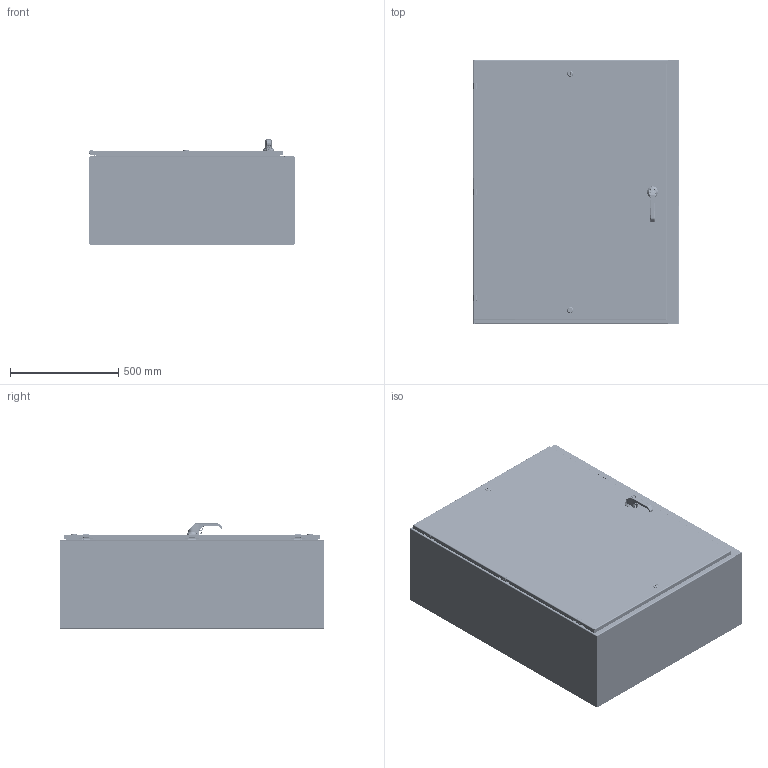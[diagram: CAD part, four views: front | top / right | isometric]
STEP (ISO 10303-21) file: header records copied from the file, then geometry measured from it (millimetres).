
FILE_DESCRIPTION((''),'2;1');
FILE_NAME('MODEL-315_ASM','2026-04-03T09:01:20',('mikek'),('SAGINAW CONTROL & ENGINEERING'),'CREO PARAMETRIC BY PTC INC, 2021284','CREO PARAMETRIC BY PTC INC, 2021284','');
FILE_SCHEMA(('AUTOMOTIVE_DESIGN { 1 0 10303 214 1 1 1 1 }'));
Length unit declared in the file: inch
Products named in the file (64): MODEL-315-BDY; MODEL-315-TP; MODEL-315-BTM; MODEL-315-DR; 100837; 100882; 111267; 125597; 100794_SHAFT; 100794_INSERT; 100794_CAM; 100794_NUT; 100794_SCREW; 100794_ASM; 100953_SCREW_MTG; 100953_PADLOCK_CATCH; 100953_SCREW_LARGE; 100953_INSERT_SHAFT; 100953_INSERT_PCH; 100953_GASKET; 100953_O-RING; 100953_BASE; 100953_SPRING; 100953_HANDLE; 100953_CAM_SHAFT; 100953_HANDLE_ASM; 100953_CAM_ADAPTER; 100953_EARTH_NUT; 100953_FLANGE_NUT; 100953_CAM_NUT; 100953_CP_INSERT; 100953_SPRING_CAM; 100953_TORSION_SPRING; 100953_SCREW_INSERT; 100953_ASM; 102237; 100030; 102237_ASM; MODEL-315-ROD-UPR; 128146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
Assembly tree (119 placements, depth 5):
  MODEL-315_ASM
    MODEL-315-BDY
    MODEL-315-TP
    MODEL-315-BTM
    MODEL-315-DR-ASSY_ASM
      MODEL-315-DR
      100837  x7
      100882  x4
      111267
      125597
      100794_ASM  x2
        100794_SHAFT
        100794_INSERT
        100794_CAM
        100794_NUT
        100794_SCREW
      100953_ASM
        100953_SCREW_MTG
        100953_PADLOCK_CATCH
        100953_SCREW_LARGE  x2
        100953_INSERT_SHAFT
        100953_INSERT_PCH
        100953_GASKET
        100953_O-RING
        100953_BASE
        100953_SPRING
        100953_HANDLE_ASM
          100953_HANDLE
          100953_CAM_SHAFT
        100953_CAM_ADAPTER
        100953_EARTH_NUT
        100953_FLANGE_NUT
        100953_CAM_NUT
        100953_CP_INSERT
        100953_SPRING_CAM
        100953_TORSION_SPRING
        100953_SCREW_INSERT
      102237_ASM
        102237
        100030  x2
      MODEL-315-ROD-UPR_ASM
        MODEL-315-ROD-UPR
        128146
        128145
        128144
        102482  x2
      128143  x2
      112504  x2
      MODEL-315-ROD-LWR_ASM
        MODEL-315-ROD-LWR
        128146
        128145
        128144
        102482  x2
      MODEL-315-POUR-GSKT
      126392_ASM  x3
        126392
      126395  x3
      102483  x9
      101226  x3
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Bounding box: 949.33 x 1219.2 x 484.73 mm (x, y, z)
Volume: 12296538 mm3; surface area: 11211418.7 mm2
Topology: 120 solids, 120 shells, 9936 faces, 24718 edges, 15062 vertices
Faces by surface type: plane 3658, cylinder 2638, bspline 1726, torus 866, cone 692, sphere 326, extrusion 30
Entity records: 349820 total; most frequent: CARTESIAN_POINT 142541, ORIENTED_EDGE 32116, DIRECTION 29118, PRESENTATION_STYLE_ASSIGNMENT 16298, EDGE_CURVE 16058, STYLED_ITEM 16016, CURVE_STYLE 15896, AXIS2_PLACEMENT_3D 10765
